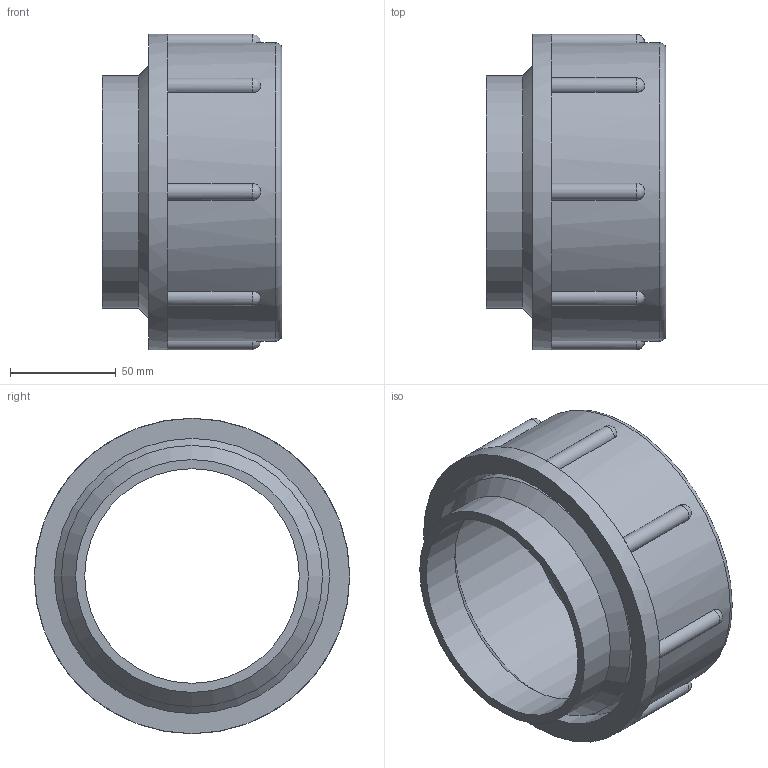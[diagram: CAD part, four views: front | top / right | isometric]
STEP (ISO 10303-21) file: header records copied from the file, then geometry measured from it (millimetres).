
FILE_DESCRIPTION((''),'2;1');
FILE_NAME('F:\Geberit_PE\Export\PE Verschraubung\stp\367740.stp','2011-03-17T20:59:41',(''),(''),'Autodesk Inventor 2011','Autodesk Inventor 2011','');
FILE_SCHEMA(('AUTOMOTIVE_DESIGN { 1 2 10303 214 0 1 1 1 }'));
Length unit declared in the file: millimetre
Products named in the file (1): 367740
Bounding box: 85 x 149 x 149 mm (x, y, z)
Volume: 402498.9 mm3; surface area: 105565.8 mm2
Topology: 2 solids, 2 shells, 51 faces, 139 edges, 83 vertices
Faces by surface type: cylinder 20, plane 14, cone 8, sphere 8, torus 1
Full cylindrical faces by diameter (mm): 101.4 x1, 110 x1, 111.5 x3, 123.4 x2, 123.5 x1, 130 x2, 141 x1, 149 x1
Entity records: 1660 total; most frequent: CARTESIAN_POINT 419, DIRECTION 272, ORIENTED_EDGE 216, AXIS2_PLACEMENT_3D 128, EDGE_CURVE 108, VERTEX_POINT 83, EDGE_LOOP 78, CIRCLE 76
